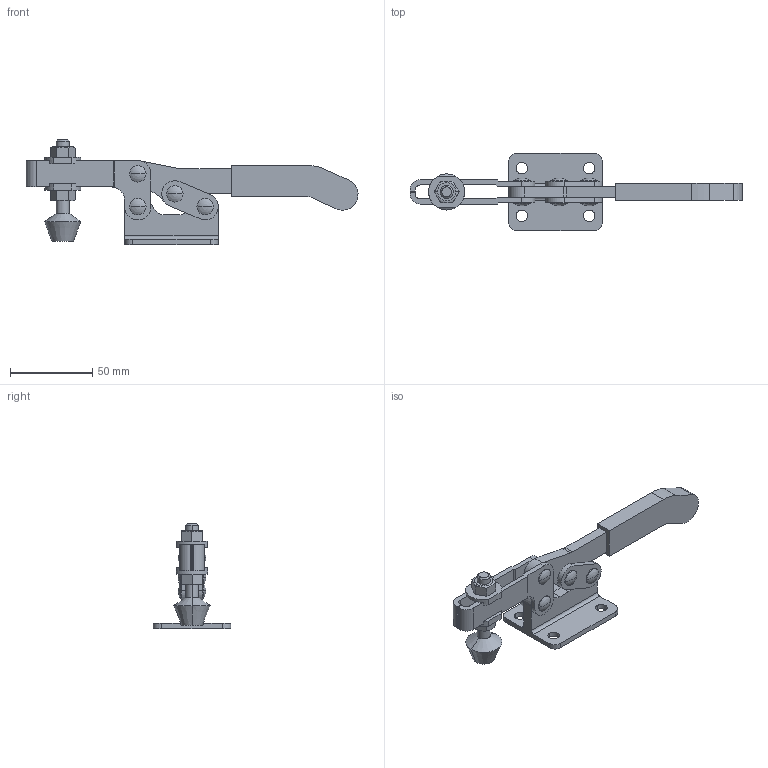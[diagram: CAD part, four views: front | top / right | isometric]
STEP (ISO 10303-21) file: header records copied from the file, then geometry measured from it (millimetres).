
FILE_DESCRIPTION(('CATIA V5 STEP Exchange'),'2;1');
FILE_NAME('D:\Model\toggle\toggle_standard\KJF_023_21F.stp','2005-06-24T02:53:41+00:00',('none'),('none'),'CATIA Version 5 Release 11 (IN-9)','CATIA V5 STEP AP203',' none');
FILE_SCHEMA(('CONFIG_CONTROL_DESIGN'));
Length unit declared in the file: millimetre
Products named in the file (1): Part1
Bounding box: 201.96 x 47 x 63.89 mm (x, y, z)
Volume: 62783.4 mm3; surface area: 34599 mm2
Topology: 15 solids, 15 shells, 204 faces, 499 edges, 318 vertices
Faces by surface type: plane 100, cylinder 78, sphere 16, cone 6, torus 4
Entity records: 5745 total; most frequent: CARTESIAN_POINT 1150, ORIENTED_EDGE 966, DIRECTION 803, EDGE_CURVE 483, AXIS2_PLACEMENT_3D 373, VERTEX_POINT 318, VECTOR 263, LINE 263
